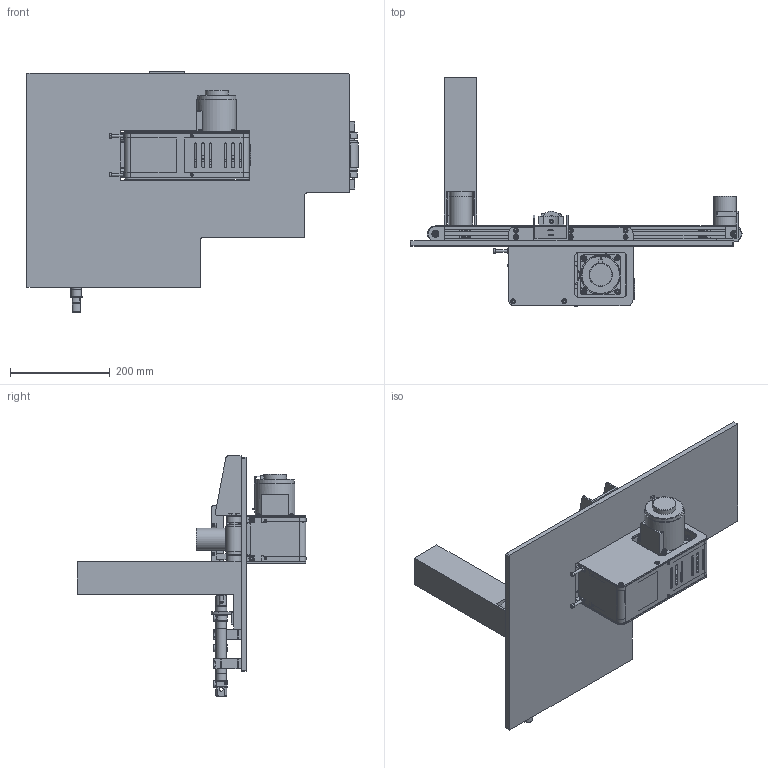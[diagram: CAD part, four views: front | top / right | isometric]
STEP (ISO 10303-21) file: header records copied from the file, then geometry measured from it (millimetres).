
FILE_DESCRIPTION(/* description */ (''),/* implementation_level */ '2;1');
FILE_NAME(/* name */ 'Assieme_nastro.stp',/* time_stamp */ '2024-10-25T15:53:40+02:00',/* author */ ('R5800u'),/* organization */ (''),/* preprocessor_version */ 'ST-DEVELOPER v20',/* originating_system */ 'Autodesk Inventor 2025',/* authorisation */ '');
FILE_SCHEMA (('AUTOMOTIVE_DESIGN { 1 0 10303 214 3 1 1 }'));
Length unit declared in the file: millimetre
Products named in the file (27): Assieme_nastro; SVKN-50-600-25-TA220-SCM-12_5-H-C; SVKN-50-600-25_l; SVKN-50-600-25-H_b; SVKN-50-25-TA220-SCM-12_5-C_mc; SVKN25-TA220-SCM-12_5-C-1; CVS_bolt5-65; MOTOR25_w; MOTOR25_n; CVS__Nut-M5; scivolo1; piano_appoggio_nastro; magazzino_pezzo; 1103200080CP/0-0-0-A-0-0; blocco_pezzi_nastro; pezzo; 1103200080CP/0-0-0-A-0-0_1; ISO_6432_TP_DI20-110-HF; ISO_6432_TP_DI20-110-80-BR; ISO_6432_TP_DI20-110-HR; ISO_6432_TP_DI20-110-PR; ISO_6432_TP_DI20-11080-R; W0950200001-3_0; ISO_6432_TP_DI20-110-PF; premi_pezzo; appoggio_cilindro_magazzino; sotto_piedino_cilindro_pezzo
Assembly tree (63 placements, depth 3):
  Assieme_nastro
    SVKN-50-600-25-TA220-SCM-12_5-H-C
      SVKN-50-600-25_l
      SVKN-50-600-25-H_b
      SVKN-50-25-TA220-SCM-12_5-C_mc
      SVKN25-TA220-SCM-12_5-C-1
      CVS_bolt5-65  x4
      MOTOR25_w  x4
      MOTOR25_n  x4
      CVS__Nut-M5  x16
    scivolo1
    piano_appoggio_nastro
    magazzino_pezzo
    1103200080CP/0-0-0-A-0-0
      ISO_6432_TP_DI20-110-HF
      ISO_6432_TP_DI20-110-80-BR
      ISO_6432_TP_DI20-110-HR
      ISO_6432_TP_DI20-110-PR
      ISO_6432_TP_DI20-11080-R
      W0950200001-3_0
      ISO_6432_TP_DI20-110-PF
    pezzo  x5
    premi_pezzo  x2
    appoggio_cilindro_magazzino  x2
    blocco_pezzi_nastro
    1103200080CP/0-0-0-A-0-0_1
      ISO_6432_TP_DI20-110-HF
      ISO_6432_TP_DI20-110-80-BR
      ISO_6432_TP_DI20-110-HR
      ISO_6432_TP_DI20-110-PR
      ISO_6432_TP_DI20-11080-R
      W0950200001-3_0
      ISO_6432_TP_DI20-110-PF
    sotto_piedino_cilindro_pezzo
Bounding box: 666.8 x 460.65 x 483 mm (x, y, z)
Volume: 5805818.1 mm3; surface area: 1642061.3 mm2
Topology: 60 solids, 60 shells, 2161 faces, 5185 edges, 3325 vertices
Faces by surface type: plane 1287, cylinder 522, cone 311, torus 28, bspline 13
Full cylindrical faces by diameter (mm): 1.946 x4, 2.5 x4, 3.242 x1, 4.134 x20, 4.3 x6, 4.98 x1, 5 x38, 5.3 x6, 5.5 x4, 6 x8, 6.5 x6, 7.2 x2, 8 x8, 8.376 x2, 8.5 x27, 8.566 x4, 9.2 x9, 9.5 x4, 10 x28, 12 x15, 12.2 x4, 12.5 x4, 13 x4, 14.88 x4, 15.4 x4, 16 x6, 19.8 x2, 20 x8, 21.27 x2, 22 x4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
Entity records: 46896 total; most frequent: CARTESIAN_POINT 8836, DIRECTION 7782, ORIENTED_EDGE 7464, EDGE_CURVE 3732, AXIS2_PLACEMENT_3D 2666, LINE 2450, VECTOR 2450, VERTEX_POINT 2404
